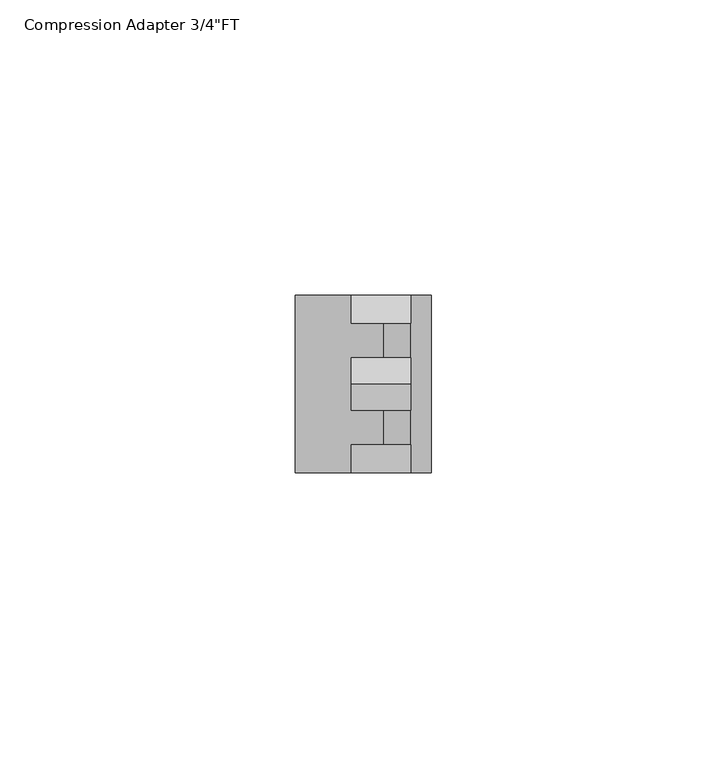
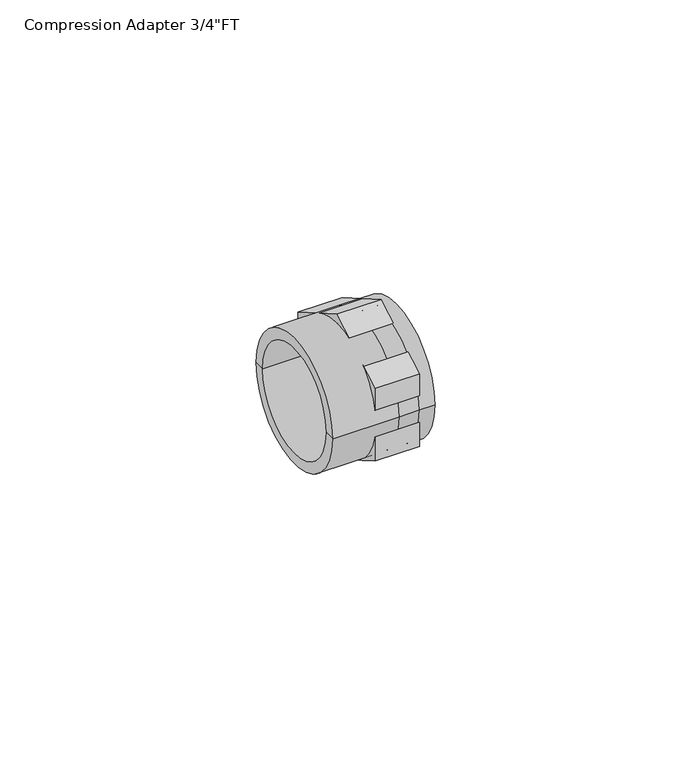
"""IFC4 building model written with IfcOpenShell, lengths in millimetres: pipe fitting geometry."""

import ifcopenshell
import ifcopenshell.guid

model = None  # the IFC model being written
_history = None  # IfcOwnerHistory: only IFC2X3 demands one
_inside = {}  # id of a spatial element -> (the spatial element, [elements in it])
_under = {}  # id of a project, library or spatial element -> (it, [spatial elements below it])
_declared = {}  # id of a project -> (the project, [libraries it declares])
_typed = {}  # id of a type object -> (the type object, [elements of that type])
_made_of = {}  # id of a material, layer set ... -> (it, [elements and type objects made of it])


def new_model(schema):
    """Start an empty IFC model of exactly this schema.

    Asked for "IFC4X3", IfcOpenShell would pick the latest addendum, in which some entities
    have other attributes; the version numbers below select the first issue.
    IFC2X3 requires an IfcOwnerHistory on every rooted entity: one is made here for all.
    """
    global model, _history
    if schema == "IFC4X3":
        model = ifcopenshell.file(schema_version=(4, 3, 0, 0))
    else:
        model = ifcopenshell.file(schema=schema)
    _inside.clear()
    _under.clear()
    _declared.clear()
    _typed.clear()
    _made_of.clear()
    _history = None
    if model.schema == "IFC2X3":
        org = make("IfcOrganization", Name="unknown")
        user = make(
            "IfcPersonAndOrganization",
            ThePerson=make("IfcPerson", FamilyName="unknown"),
            TheOrganization=org,
        )
        app = make(
            "IfcApplication",
            ApplicationDeveloper=org,
            Version="unknown",
            ApplicationFullName="unknown",
            ApplicationIdentifier="unknown",
        )
        _history = make(
            "IfcOwnerHistory",
            OwningUser=user,
            OwningApplication=app,
            ChangeAction="ADDED",
            CreationDate=0,
        )
    return model


def make(cls, **values):
    """One entity of the class cls with the attributes given. An attribute that is None is left unset."""
    return model.create_entity(
        cls, **{name: value for name, value in values.items() if value is not None}
    )


def rooted(cls, **values):
    """An entity with a GlobalId (a new one), such as an element, a storey or a relation."""
    return make(cls, GlobalId=ifcopenshell.guid.new(), OwnerHistory=_history, **values)


def si_unit(unit_type, name, prefix=None):
    """IfcSIUnit, for example si_unit("LENGTHUNIT", "METRE", prefix="MILLI")."""
    return make("IfcSIUnit", UnitType=unit_type, Prefix=prefix, Name=name)


def assignment(units):
    """IfcUnitAssignment: the units of a project."""
    return None if units is None else make("IfcUnitAssignment", Units=units)


def point(xyz):
    """IfcCartesianPoint."""
    return None if xyz is None else make("IfcCartesianPoint", Coordinates=xyz)


def direction(xyz):
    """IfcDirection."""
    return None if xyz is None else make("IfcDirection", DirectionRatios=xyz)


def frame(location, z_axis=None, x_axis=None):
    """IfcAxis2Placement3D, a coordinate frame: its origin and axes. An axis left out is left unset."""
    return make(
        "IfcAxis2Placement3D",
        Location=point(location),
        Axis=direction(z_axis),
        RefDirection=direction(x_axis),
    )


def frame_2d(location, x_axis=None):
    """IfcAxis2Placement2D, a coordinate frame in the plane: its origin and x axis."""
    return make(
        "IfcAxis2Placement2D", Location=point(location), RefDirection=direction(x_axis)
    )


def origin():
    """The frame at (0, 0, 0) with its axes left unset."""
    return frame((0.0, 0.0, 0.0))


def origin_2d():
    """The frame at (0, 0) in the plane with its x axis left unset."""
    return frame_2d((0.0, 0.0))


def place(relative_to, where):
    """IfcLocalPlacement: puts the frame where relative to a parent placement (None: the world)."""
    return make(
        "IfcLocalPlacement", PlacementRelTo=relative_to, RelativePlacement=where
    )


def context(
    kind, dimensions, precision=None, world=None, true_north=None, identifier=None
):
    """IfcGeometricRepresentationContext, for example the 3D "Model" context."""
    return make(
        "IfcGeometricRepresentationContext",
        ContextIdentifier=identifier,
        ContextType=kind,
        CoordinateSpaceDimension=dimensions,
        Precision=precision,
        WorldCoordinateSystem=world,
        TrueNorth=true_north,
    )


def project(units=None, contexts=None):
    """IfcProject with its units and contexts."""
    return rooted(
        "IfcProject",
        Name="project",
        RepresentationContexts=contexts,
        UnitsInContext=assignment(units),
    )


def spatial(cls, under=None, at=None, **own):
    """A site, building, storey or space (cls), placed at a placement, below another one or the project."""
    s = rooted(cls, ObjectPlacement=at, **own)
    if under is not None:
        _under.setdefault(under.id(), (under, []))[1].append(s)
    return s


def polyline(points):
    """IfcPolyline through the points."""
    return make("IfcPolyline", Points=[point(p) for p in points])


def circle_curve(where, radius):
    """IfcCircle in the frame where."""
    return make("IfcCircle", Position=where, Radius=radius)


def trimmed(basis, trim1, trim2, sense, master):
    """IfcTrimmedCurve: the piece of a basis curve between two trims."""
    return make(
        "IfcTrimmedCurve",
        BasisCurve=basis,
        Trim1=trim1,
        Trim2=trim2,
        SenseAgreement=sense,
        MasterRepresentation=master,
    )


def segment(curve, same_sense, transition):
    """IfcCompositeCurveSegment."""
    return make(
        "IfcCompositeCurveSegment",
        Transition=transition,
        SameSense=same_sense,
        ParentCurve=curve,
    )


def composite_curve(segments, self_intersect=None):
    """IfcCompositeCurve: segments joined end to end."""
    return make("IfcCompositeCurve", Segments=segments, SelfIntersect=self_intersect)


def outline(outer, holes=None, kind="AREA"):
    """IfcArbitraryClosedProfileDef: a profile drawn as a closed curve; with holes, ...WithVoids."""
    if holes is None:
        return make("IfcArbitraryClosedProfileDef", ProfileType=kind, OuterCurve=outer)
    return make(
        "IfcArbitraryProfileDefWithVoids",
        ProfileType=kind,
        OuterCurve=outer,
        InnerCurves=holes,
    )


def extrude(swept, where, along, depth):
    """IfcExtrudedAreaSolid: the profile swept, set in the frame where, extruded along a direction by depth."""
    return make(
        "IfcExtrudedAreaSolid",
        SweptArea=swept,
        Position=where,
        ExtrudedDirection=direction(along),
        Depth=depth,
    )


def shape(context_of_items, identifier, shape_type, items):
    """IfcShapeRepresentation: the items that make up one representation, for example the "Body"."""
    return make(
        "IfcShapeRepresentation",
        ContextOfItems=context_of_items,
        RepresentationIdentifier=identifier,
        RepresentationType=shape_type,
        Items=items,
    )


def source(mapping_origin, context_of_items, identifier, shape_type, items):
    """IfcRepresentationMap: a shape defined once, which mapped items show again and again."""
    return make(
        "IfcRepresentationMap",
        MappingOrigin=mapping_origin,
        MappedRepresentation=shape(context_of_items, identifier, shape_type, items),
    )


def transform(
    local_origin,
    x_axis=None,
    y_axis=None,
    z_axis=None,
    scale=None,
    scale2=None,
    scale3=None,
    uniform=True,
):
    """IfcCartesianTransformationOperator3D, or its non-uniform kind. x_axis, y_axis, z_axis: its Axis1, 2, 3."""
    if uniform:
        return make(
            "IfcCartesianTransformationOperator3D",
            Axis1=direction(x_axis),
            Axis2=direction(y_axis),
            LocalOrigin=point(local_origin),
            Scale=scale,
            Axis3=direction(z_axis),
        )
    return make(
        "IfcCartesianTransformationOperator3DnonUniform",
        Axis1=direction(x_axis),
        Axis2=direction(y_axis),
        LocalOrigin=point(local_origin),
        Scale=scale,
        Axis3=direction(z_axis),
        Scale2=scale2,
        Scale3=scale3,
    )


def mapped(mapping_source, mapping_target):
    """IfcMappedItem: shows the shape of a source again, moved by a transform."""
    return make(
        "IfcMappedItem", MappingSource=mapping_source, MappingTarget=mapping_target
    )


def made_of(thing, what):
    """Note that an element or type object is made of a material, layer set ...; save() writes the relation."""
    if what is not None:
        _made_of.setdefault(what.id(), (what, []))[1].append(thing)
    return thing


def element(
    cls,
    number,
    at=None,
    inside=None,
    cuts=None,
    type_object=None,
    material=None,
    context=None,
    identifier="Body",
    shape_type=None,
    held_by="IfcProductDefinitionShape",
    body=None,
    shapes=None,
    **own,
):
    """One element of the class cls, such as IfcWall. Its Tag is "e" and its number.

    at: its placement. inside: the storey or other place that contains it. cuts: it is an
    opening in that element (IfcRelVoidsElement). A single representation is given by context,
    identifier, shape_type and body (its items); several are given by shapes. held_by: the class
    of the entity that holds the representations. save() writes the other relations.
    """
    e = rooted(cls, Tag="e%d" % number, ObjectPlacement=at, **own)
    if body is not None:
        shapes = [shape(context, identifier, shape_type, body)]
    if shapes is not None:
        e.Representation = make(held_by, Representations=shapes)
    if inside is not None:
        _inside.setdefault(inside.id(), (inside, []))[1].append(e)
    if cuts is not None:
        rooted(
            "IfcRelVoidsElement", RelatingBuildingElement=cuts, RelatedOpeningElement=e
        )
    if type_object is not None:
        _typed.setdefault(type_object.id(), (type_object, []))[1].append(e)
    return made_of(e, material)


def aggregate(whole, parts):
    """IfcRelAggregates: a whole, such as a stair, and the parts it consists of."""
    return rooted("IfcRelAggregates", RelatingObject=whole, RelatedObjects=parts)


def save(model, path):
    """Write the relations noted so far, then the file.

    IfcRelAggregates (storeys below a building ...), IfcRelContainedInSpatialStructure (elements
    in a storey), IfcRelDefinesByType, IfcRelAssociatesMaterial and IfcRelDeclares: one each for
    every whole, place, type object, material and project.
    """
    for whole, parts in _under.values():
        aggregate(whole, parts)
    for where, things in _inside.values():
        rooted(
            "IfcRelContainedInSpatialStructure",
            RelatedElements=things,
            RelatingStructure=where,
        )
    for kind, things in _typed.values():
        rooted("IfcRelDefinesByType", RelatedObjects=things, RelatingType=kind)
    for what, things in _made_of.values():
        rooted("IfcRelAssociatesMaterial", RelatedObjects=things, RelatingMaterial=what)
    for by, libraries in _declared.values():
        rooted("IfcRelDeclares", RelatingContext=by, RelatedDefinitions=libraries)
    model.write(path)


def plane_surface(at):
    """IfcPlane: the flat surface through the origin of the frame at, square to its z axis."""
    return make("IfcPlane", Position=at)


def cylinder_surface(at, radius):
    """IfcCylindricalSurface: all points at the distance radius from the z axis of the frame at."""
    return make("IfcCylindricalSurface", Position=at, Radius=radius)


def revolved_surface(curve, axis_point, axis_direction):
    """IfcSurfaceOfRevolution: the curve turned about the line through axis_point along axis_direction."""
    return make(
        "IfcSurfaceOfRevolution",
        SweptCurve=make("IfcArbitraryOpenProfileDef", ProfileType="CURVE", Curve=curve),
        AxisPosition=make("IfcAxis1Placement", Location=point(axis_point), Axis=direction(axis_direction)),
    )


def advanced_brep(points, edges, surfaces, faces):
    """IfcAdvancedBrep: a solid bounded by faces that lie on surfaces and meet in shared edges.

    An edge is (start, end): straight between two places in points (the first is 0);
    or (start, end, curve); or (start, end, curve, False) where it runs against its curve.
    A face is (place in surfaces, loops), or (place, loops, False) where it looks against
    its surface's normal. A loop lists edges by number (the first is 1), with a minus sign
    where the edge is run from its end to its start. The first loop is the outer one.
    """
    corners = [point(p) for p in points]
    vertices = [make("IfcVertexPoint", VertexGeometry=c) for c in corners]
    made = []
    for start, end, *more in edges:
        made.append(
            make(
                "IfcEdgeCurve",
                EdgeStart=vertices[start],
                EdgeEnd=vertices[end],
                EdgeGeometry=more[0] if more else make("IfcPolyline", Points=[corners[start], corners[end]]),
                SameSense=more[1] if len(more) > 1 else True,
            )
        )
    hull = []
    for where, loops, *sense in faces:
        bounds = []
        for j, loop in enumerate(loops):
            ring = [make("IfcOrientedEdge", EdgeElement=made[abs(k) - 1], Orientation=k > 0) for k in loop]
            bounds.append(
                make(
                    "IfcFaceOuterBound" if j == 0 else "IfcFaceBound",
                    Bound=make("IfcEdgeLoop", EdgeList=ring),
                    Orientation=True,
                )
            )
        hull.append(make("IfcAdvancedFace", Bounds=bounds, FaceSurface=surfaces[where], SameSense=sense[0] if sense else True))
    return make("IfcAdvancedBrep", Outer=make("IfcClosedShell", CfsFaces=hull))


def pipe_fitting_2b9a29ce(model_context):
    return source(origin(), model_context, "Body", "SolidModel", [
        advanced_brep(
        [(18.0, -12.5, 0.0), (18.0, 12.5, 0.0), (0.0, 12.5, 0.0), (0.0, -12.5, 0.0), (19.5, -12.5, 0.0), (19.5, 12.5, 0.0), (23.0, -12.5, 0.0), (23.0, 12.5, 0.0), (23.0, -15.0, 0.0), (23.0, 15.0, 0.0), (19.5, -15.0, 0.0), (19.5, 15.0, 0.0), (15.0, -15.0, 0.0), (15.0, 15.0, 0.0), (0.0, -15.0, 0.0), (0.0, 15.0, 0.0)],
        [
            (0, 1, circle_curve(frame((18.0, 0.0, 0.0), z_axis=(1.0, 0.0, 0.0), x_axis=(0.0, 1.0, 0.0)), 12.5)),
            (1, 2),
            (2, 3, circle_curve(frame((0.0, 0.0, 0.0), z_axis=(-1.0, 0.0, 0.0), x_axis=(0.0, 1.0, 0.0)), 12.5)),
            (3, 0),
            (1, 0, circle_curve(frame((18.0, 0.0, 0.0), z_axis=(1.0, 0.0, 0.0), x_axis=(0.0, 1.0, 0.0)), 12.5)),
            (3, 2, circle_curve(frame((0.0, 0.0, 0.0), z_axis=(-1.0, 0.0, 0.0), x_axis=(0.0, 1.0, 0.0)), 12.5)),
            (4, 5, circle_curve(frame((19.5, 0.0, 0.0), z_axis=(1.0, 0.0, 0.0), x_axis=(0.0, 1.0, 0.0)), 12.5)),
            (5, 1),
            (0, 4),
            (5, 4, circle_curve(frame((19.5, 0.0, 0.0), z_axis=(1.0, 0.0, 0.0), x_axis=(0.0, 1.0, 0.0)), 12.5)),
            (6, 7, circle_curve(frame((23.0, 0.0, 0.0), z_axis=(1.0, 0.0, 0.0), x_axis=(0.0, 1.0, 0.0)), 12.5)),
            (7, 5),
            (4, 6),
            (7, 6, circle_curve(frame((23.0, 0.0, 0.0), z_axis=(1.0, 0.0, 0.0), x_axis=(0.0, 1.0, 0.0)), 12.5)),
            (8, 9, circle_curve(frame((23.0, 0.0, 0.0), z_axis=(1.0, 0.0, 0.0), x_axis=(0.0, 1.0, 0.0)), 15.0)),
            (9, 7),
            (6, 8),
            (9, 8, circle_curve(frame((23.0, 0.0, 0.0), z_axis=(1.0, 0.0, 0.0), x_axis=(0.0, 1.0, 0.0)), 15.0)),
            (10, 11, circle_curve(frame((19.5, 0.0, 0.0), z_axis=(1.0, 0.0, 0.0), x_axis=(0.0, 1.0, 0.0)), 15.0)),
            (11, 9),
            (8, 10),
            (11, 10, circle_curve(frame((19.5, 0.0, 0.0), z_axis=(1.0, 0.0, 0.0), x_axis=(0.0, 1.0, 0.0)), 15.0)),
            (12, 13, circle_curve(frame((15.0, 0.0, 0.0), z_axis=(1.0, 0.0, 0.0), x_axis=(0.0, 1.0, 0.0)), 15.0)),
            (13, 11),
            (10, 12),
            (13, 12, circle_curve(frame((15.0, 0.0, 0.0), z_axis=(1.0, 0.0, 0.0), x_axis=(0.0, 1.0, 0.0)), 15.0)),
            (14, 15, circle_curve(frame((0.0, 0.0, 0.0), z_axis=(1.0, 0.0, 0.0), x_axis=(0.0, 1.0, 0.0)), 15.0)),
            (15, 13),
            (12, 14),
            (15, 14, circle_curve(frame((0.0, 0.0, 0.0), z_axis=(1.0, 0.0, 0.0), x_axis=(0.0, 1.0, 0.0)), 15.0)),
            (2, 15),
            (14, 3),
        ],
        [
            revolved_surface(polyline([(0.0, 12.5, 0.0), (18.0, 12.5, 0.0)]), (2001.0, 0.0, 0.0), (-1.0, 0.0, 0.0)),
            revolved_surface(polyline([(18.0, 12.5, 0.0), (19.5, 12.5, 0.0)]), (2001.0, 0.0, 0.0), (-1.0, 0.0, 0.0)),
            revolved_surface(polyline([(19.5, 12.5, 0.0), (23.0, 12.5, 0.0)]), (2001.0, 0.0, 0.0), (-1.0, 0.0, 0.0)),
            plane_surface(frame((23.0, 0.0, 0.0), z_axis=(1.0, 0.0, 0.0), x_axis=(0.0, 1.0, 0.0))),
            cylinder_surface(frame((2001.0, 0.0, 0.0), z_axis=(-1.0, 0.0, 0.0), x_axis=(0.0, 1.0, 0.0)), 15.0),
            plane_surface(frame((0.0, 0.0, 0.0), z_axis=(-1.0, 0.0, 0.0), x_axis=(0.0, 1.0, 0.0))),
        ],
        [
            (0, [[1, 2, 3, 4]]),
            (0, [[5, -4, 6, -2]]),
            (1, [[7, 8, -1, 9]]),
            (1, [[10, -9, -5, -8]]),
            (2, [[11, 12, -7, 13]]),
            (2, [[14, -13, -10, -12]]),
            (3, [[15, 16, -11, 17]]),
            (3, [[18, -17, -14, -16]]),
            (4, [[19, 20, -15, 21]]),
            (4, [[22, -21, -18, -20]]),
            (4, [[23, 24, -19, 25]]),
            (4, [[26, -25, -22, -24]]),
            (4, [[27, 28, -23, 29]]),
            (4, [[30, -29, -26, -28]]),
            (5, [[-3, 31, -27, 32]]),
            (5, [[-6, -32, -30, -31]]),
        ],
    ),
        extrude(outline(polyline([(0.0, 17.3205081), (15.0, 8.660254), (15.0, -8.660254), (0.0, -17.3205081), (-15.0, -8.660254), (-15.0, 8.660254), (0.0, 17.3205081)]), holes=[composite_curve([segment(trimmed(circle_curve(origin_2d(), 12.5), [point((-12.5, 0.0))], [point((12.5, 0.0))], True, "CARTESIAN"), True, "CONTINUOUS"), segment(trimmed(circle_curve(origin_2d(), 12.5), [point((12.5, 0.0))], [point((-12.5, 0.0))], True, "CARTESIAN"), True, "CONTINUOUS")], self_intersect=False)]), frame((9.5, 0.0, 0.0), z_axis=(1.0, 0.0, 0.0), x_axis=(0.0, 1.0, 0.0)), (0.0, 0.0, 1.0), 10.0),
    ])


if __name__ == "__main__":
    model = new_model("IFC4")
    model_context = context("Model", 3, world=origin())
    ifc_project = project(units=[si_unit("LENGTHUNIT", "METRE", prefix="MILLI")], contexts=[model_context])
    site = spatial("IfcSite", under=ifc_project)
    building = spatial("IfcBuilding", under=site)
    placement = place(None, origin())
    pipe_fitting_shape = pipe_fitting_2b9a29ce(model_context)
    element("IfcPipeFitting", 1, ObjectType="Compression Adapter 3/4\"FT : Superpipe Compression Adapter", at=placement, inside=building, context=model_context, shape_type="MappedRepresentation", body=[
        mapped(pipe_fitting_shape, transform((0.0, 0.0, 0.0), x_axis=(1.0, 0.0, 0.0), y_axis=(0.0, 1.0, 0.0), z_axis=(0.0, 0.0, 1.0))),
    ])
    save(model, "model.ifc")
